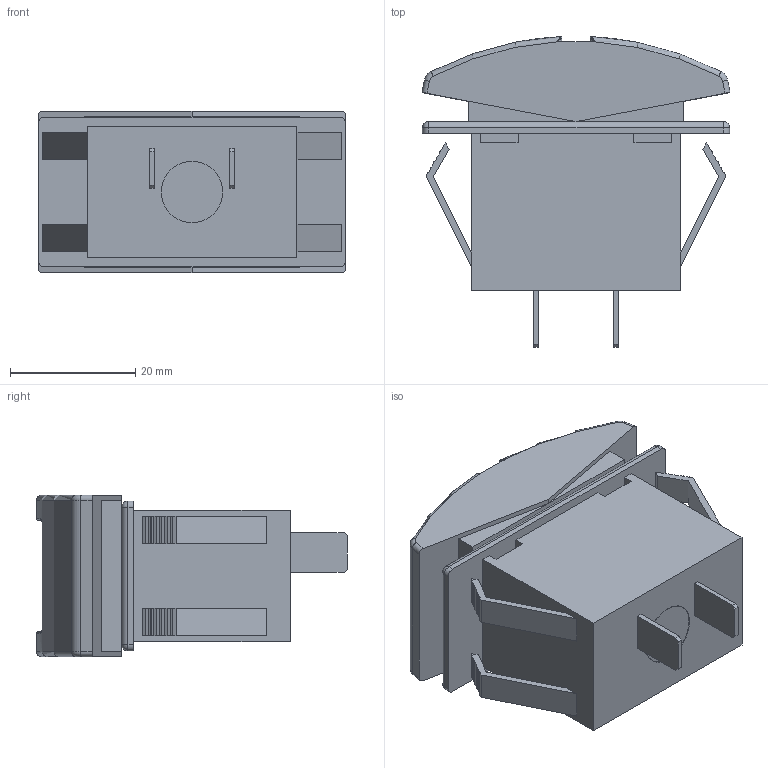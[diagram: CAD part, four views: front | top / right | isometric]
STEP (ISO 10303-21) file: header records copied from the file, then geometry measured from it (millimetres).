
FILE_DESCRIPTION(/* description */ (''),/* implementation_level */ '2;1');
FILE_NAME(/* name */ 'A3B-USB2C-1-B.stp',/* time_stamp */ '2024-04-17T12:01:56-07:00',/* author */ ('raniahc'),/* organization */ (''),/* preprocessor_version */ 'ST-DEVELOPER v19.2',/* originating_system */ 'Autodesk Inventor 2024',/* authorisation */ '');
FILE_SCHEMA (('AUTOMOTIVE_DESIGN { 1 0 10303 214 3 1 1 }'));
Products named in the file (3): A3B-USB2C-1-B; Base; Top
Assembly tree (2 placements, depth 2):
  A3B-USB2C-1-B
    Base
    Top
Bounding box: 49.12 x 49.54 x 25.8 mm (x, y, z)
Volume: 32498.9 mm3; surface area: 10758 mm2
Topology: 2 solids, 2 shells, 242 faces, 633 edges, 402 vertices
Faces by surface type: plane 175, cylinder 39, torus 12, sphere 8, bspline 8
Full cylindrical faces by diameter (mm): 9.8 x1
Entity records: 7708 total; most frequent: CARTESIAN_POINT 1678, ORIENTED_EDGE 1258, DIRECTION 1177, EDGE_CURVE 629, LINE 511, VECTOR 511, VERTEX_POINT 402, AXIS2_PLACEMENT_3D 333
